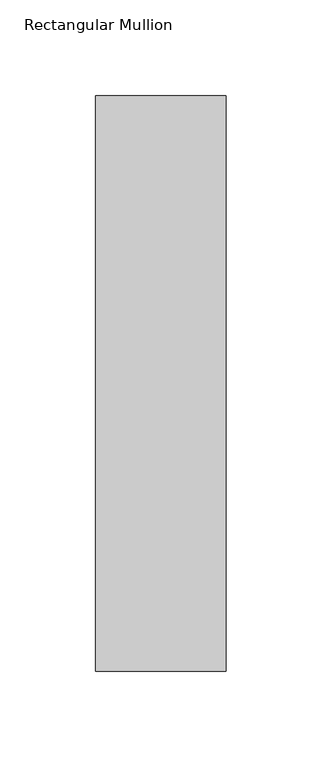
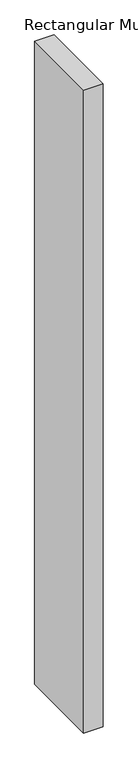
"""IFC4 building model written with IfcOpenShell, lengths in millimetres: member geometry, Rectangular Mullion : DucoSun Cubic Design louvre 300."""

import ifcopenshell
import ifcopenshell.guid

model = None  # the IFC model being written
_history = None  # IfcOwnerHistory: only IFC2X3 demands one
_inside = {}  # id of a spatial element -> (the spatial element, [elements in it])
_under = {}  # id of a project, library or spatial element -> (it, [spatial elements below it])
_declared = {}  # id of a project -> (the project, [libraries it declares])
_typed = {}  # id of a type object -> (the type object, [elements of that type])
_made_of = {}  # id of a material, layer set ... -> (it, [elements and type objects made of it])


def new_model(schema):
    """Start an empty IFC model of exactly this schema.

    Asked for "IFC4X3", IfcOpenShell would pick the latest addendum, in which some entities
    have other attributes; the version numbers below select the first issue.
    IFC2X3 requires an IfcOwnerHistory on every rooted entity: one is made here for all.
    """
    global model, _history
    if schema == "IFC4X3":
        model = ifcopenshell.file(schema_version=(4, 3, 0, 0))
    else:
        model = ifcopenshell.file(schema=schema)
    _inside.clear()
    _under.clear()
    _declared.clear()
    _typed.clear()
    _made_of.clear()
    _history = None
    if model.schema == "IFC2X3":
        org = make("IfcOrganization", Name="unknown")
        user = make(
            "IfcPersonAndOrganization",
            ThePerson=make("IfcPerson", FamilyName="unknown"),
            TheOrganization=org,
        )
        app = make(
            "IfcApplication",
            ApplicationDeveloper=org,
            Version="unknown",
            ApplicationFullName="unknown",
            ApplicationIdentifier="unknown",
        )
        _history = make(
            "IfcOwnerHistory",
            OwningUser=user,
            OwningApplication=app,
            ChangeAction="ADDED",
            CreationDate=0,
        )
    return model


def make(cls, **values):
    """One entity of the class cls with the attributes given. An attribute that is None is left unset."""
    return model.create_entity(
        cls, **{name: value for name, value in values.items() if value is not None}
    )


def rooted(cls, **values):
    """An entity with a GlobalId (a new one), such as an element, a storey or a relation."""
    return make(cls, GlobalId=ifcopenshell.guid.new(), OwnerHistory=_history, **values)


def si_unit(unit_type, name, prefix=None):
    """IfcSIUnit, for example si_unit("LENGTHUNIT", "METRE", prefix="MILLI")."""
    return make("IfcSIUnit", UnitType=unit_type, Prefix=prefix, Name=name)


def assignment(units):
    """IfcUnitAssignment: the units of a project."""
    return None if units is None else make("IfcUnitAssignment", Units=units)


def point(xyz):
    """IfcCartesianPoint."""
    return None if xyz is None else make("IfcCartesianPoint", Coordinates=xyz)


def direction(xyz):
    """IfcDirection."""
    return None if xyz is None else make("IfcDirection", DirectionRatios=xyz)


def frame(location, z_axis=None, x_axis=None):
    """IfcAxis2Placement3D, a coordinate frame: its origin and axes. An axis left out is left unset."""
    return make(
        "IfcAxis2Placement3D",
        Location=point(location),
        Axis=direction(z_axis),
        RefDirection=direction(x_axis),
    )


def origin():
    """The frame at (0, 0, 0) with its axes left unset."""
    return frame((0.0, 0.0, 0.0))


def place(relative_to, where):
    """IfcLocalPlacement: puts the frame where relative to a parent placement (None: the world)."""
    return make(
        "IfcLocalPlacement", PlacementRelTo=relative_to, RelativePlacement=where
    )


def context(
    kind, dimensions, precision=None, world=None, true_north=None, identifier=None
):
    """IfcGeometricRepresentationContext, for example the 3D "Model" context."""
    return make(
        "IfcGeometricRepresentationContext",
        ContextIdentifier=identifier,
        ContextType=kind,
        CoordinateSpaceDimension=dimensions,
        Precision=precision,
        WorldCoordinateSystem=world,
        TrueNorth=true_north,
    )


def project(units=None, contexts=None):
    """IfcProject with its units and contexts."""
    return rooted(
        "IfcProject",
        Name="project",
        RepresentationContexts=contexts,
        UnitsInContext=assignment(units),
    )


def spatial(cls, under=None, at=None, **own):
    """A site, building, storey or space (cls), placed at a placement, below another one or the project."""
    s = rooted(cls, ObjectPlacement=at, **own)
    if under is not None:
        _under.setdefault(under.id(), (under, []))[1].append(s)
    return s


def polyline(points):
    """IfcPolyline through the points."""
    return make("IfcPolyline", Points=[point(p) for p in points])


def outline(outer, holes=None, kind="AREA"):
    """IfcArbitraryClosedProfileDef: a profile drawn as a closed curve; with holes, ...WithVoids."""
    if holes is None:
        return make("IfcArbitraryClosedProfileDef", ProfileType=kind, OuterCurve=outer)
    return make(
        "IfcArbitraryProfileDefWithVoids",
        ProfileType=kind,
        OuterCurve=outer,
        InnerCurves=holes,
    )


def extrude(swept, where, along, depth):
    """IfcExtrudedAreaSolid: the profile swept, set in the frame where, extruded along a direction by depth."""
    return make(
        "IfcExtrudedAreaSolid",
        SweptArea=swept,
        Position=where,
        ExtrudedDirection=direction(along),
        Depth=depth,
    )


def shape(context_of_items, identifier, shape_type, items):
    """IfcShapeRepresentation: the items that make up one representation, for example the "Body"."""
    return make(
        "IfcShapeRepresentation",
        ContextOfItems=context_of_items,
        RepresentationIdentifier=identifier,
        RepresentationType=shape_type,
        Items=items,
    )


def source(mapping_origin, context_of_items, identifier, shape_type, items):
    """IfcRepresentationMap: a shape defined once, which mapped items show again and again."""
    return make(
        "IfcRepresentationMap",
        MappingOrigin=mapping_origin,
        MappedRepresentation=shape(context_of_items, identifier, shape_type, items),
    )


def transform(
    local_origin,
    x_axis=None,
    y_axis=None,
    z_axis=None,
    scale=None,
    scale2=None,
    scale3=None,
    uniform=True,
):
    """IfcCartesianTransformationOperator3D, or its non-uniform kind. x_axis, y_axis, z_axis: its Axis1, 2, 3."""
    if uniform:
        return make(
            "IfcCartesianTransformationOperator3D",
            Axis1=direction(x_axis),
            Axis2=direction(y_axis),
            LocalOrigin=point(local_origin),
            Scale=scale,
            Axis3=direction(z_axis),
        )
    return make(
        "IfcCartesianTransformationOperator3DnonUniform",
        Axis1=direction(x_axis),
        Axis2=direction(y_axis),
        LocalOrigin=point(local_origin),
        Scale=scale,
        Axis3=direction(z_axis),
        Scale2=scale2,
        Scale3=scale3,
    )


def mapped(mapping_source, mapping_target):
    """IfcMappedItem: shows the shape of a source again, moved by a transform."""
    return make(
        "IfcMappedItem", MappingSource=mapping_source, MappingTarget=mapping_target
    )


def made_of(thing, what):
    """Note that an element or type object is made of a material, layer set ...; save() writes the relation."""
    if what is not None:
        _made_of.setdefault(what.id(), (what, []))[1].append(thing)
    return thing


def element(
    cls,
    number,
    at=None,
    inside=None,
    cuts=None,
    type_object=None,
    material=None,
    context=None,
    identifier="Body",
    shape_type=None,
    held_by="IfcProductDefinitionShape",
    body=None,
    shapes=None,
    **own,
):
    """One element of the class cls, such as IfcWall. Its Tag is "e" and its number.

    at: its placement. inside: the storey or other place that contains it. cuts: it is an
    opening in that element (IfcRelVoidsElement). A single representation is given by context,
    identifier, shape_type and body (its items); several are given by shapes. held_by: the class
    of the entity that holds the representations. save() writes the other relations.
    """
    e = rooted(cls, Tag="e%d" % number, ObjectPlacement=at, **own)
    if body is not None:
        shapes = [shape(context, identifier, shape_type, body)]
    if shapes is not None:
        e.Representation = make(held_by, Representations=shapes)
    if inside is not None:
        _inside.setdefault(inside.id(), (inside, []))[1].append(e)
    if cuts is not None:
        rooted(
            "IfcRelVoidsElement", RelatingBuildingElement=cuts, RelatedOpeningElement=e
        )
    if type_object is not None:
        _typed.setdefault(type_object.id(), (type_object, []))[1].append(e)
    return made_of(e, material)


def aggregate(whole, parts):
    """IfcRelAggregates: a whole, such as a stair, and the parts it consists of."""
    return rooted("IfcRelAggregates", RelatingObject=whole, RelatedObjects=parts)


def save(model, path):
    """Write the relations noted so far, then the file.

    IfcRelAggregates (storeys below a building ...), IfcRelContainedInSpatialStructure (elements
    in a storey), IfcRelDefinesByType, IfcRelAssociatesMaterial and IfcRelDeclares: one each for
    every whole, place, type object, material and project.
    """
    for whole, parts in _under.values():
        aggregate(whole, parts)
    for where, things in _inside.values():
        rooted(
            "IfcRelContainedInSpatialStructure",
            RelatedElements=things,
            RelatingStructure=where,
        )
    for kind, things in _typed.values():
        rooted("IfcRelDefinesByType", RelatedObjects=things, RelatingType=kind)
    for what, things in _made_of.values():
        rooted("IfcRelAssociatesMaterial", RelatedObjects=things, RelatingMaterial=what)
    for by, libraries in _declared.values():
        rooted("IfcRelDeclares", RelatingContext=by, RelatedDefinitions=libraries)
    model.write(path)


def rectangular_mullion_4d45f8aa(model_context):
    return source(origin(), model_context, "Body", "SweptSolid", [
        extrude(outline(polyline([(34.0, 300.0), (34.0, 0.0), (-34.0, 0.0), (-34.0, 300.0), (34.0, 300.0)])), frame((0.0, 0.0, -2400.0), z_axis=(0.0, 0.0, 1.0), x_axis=(1.0, 0.0, 0.0)), (0.0, 0.0, 1.0), 2400.0),
    ])


if __name__ == "__main__":
    model = new_model("IFC4")
    model_context = context("Model", 3, world=origin())
    ifc_project = project(units=[si_unit("LENGTHUNIT", "METRE", prefix="MILLI")], contexts=[model_context])
    site = spatial("IfcSite", under=ifc_project)
    building = spatial("IfcBuilding", under=site)
    placement = place(None, origin())
    rectangular_mullion_shape = rectangular_mullion_4d45f8aa(model_context)
    element("IfcMember", 1, ObjectType="Rectangular Mullion : DucoSun Cubic Design louvre 300", at=placement, inside=building, context=model_context, shape_type="MappedRepresentation", body=[
        mapped(rectangular_mullion_shape, transform((0.0, 0.0, 0.0), x_axis=(1.0, 0.0, 0.0), y_axis=(0.0, 1.0, 0.0), z_axis=(0.0, 0.0, 1.0))),
    ])
    save(model, "model.ifc")
